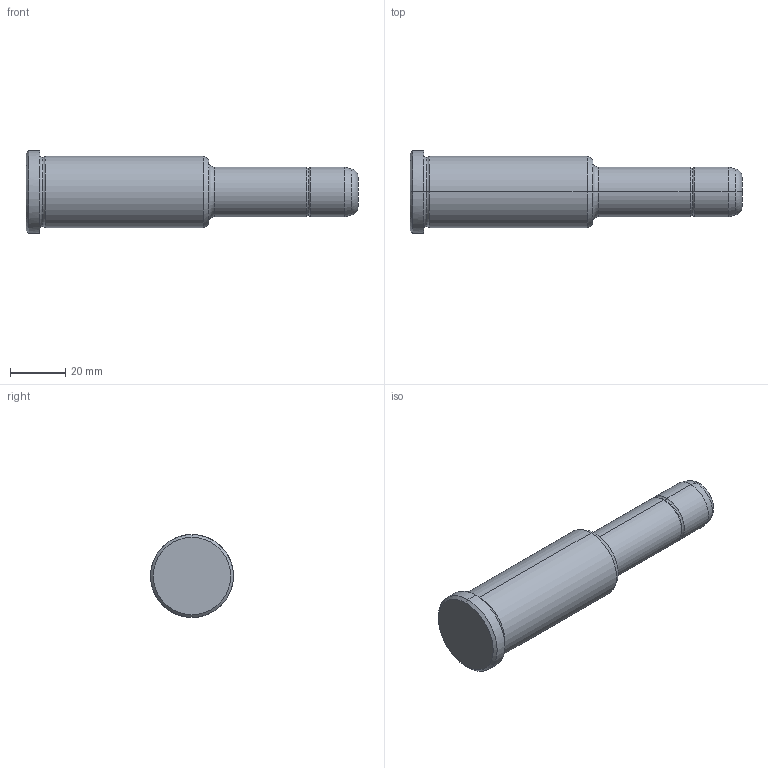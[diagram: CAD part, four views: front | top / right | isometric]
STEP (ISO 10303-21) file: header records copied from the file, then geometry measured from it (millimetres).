
FILE_DESCRIPTION(('CATIA V5 STEP Exchange'),'2;1');
FILE_NAME('C:\Users\Utente\Desktop\IO LAVORO\3D X SITO CF\X SITO\PLASTICA\351\351-18X66X120.stp','2021-08-27T11:22:32+00:00',('none'),('none'),'CATIA Version 5 Release 20 GA (IN-10)','CATIA V5 STEP AP203','none');
FILE_SCHEMA(('CONFIG_CONTROL_DESIGN'));
Length unit declared in the file: millimetre
Products named in the file (1): 351-18X66X120
Bounding box: 120 x 30 x 30 mm (x, y, z)
Volume: 49261.5 mm3; surface area: 9669.8 mm2
Topology: 1 solids, 1 shells, 30 faces, 86 edges, 60 vertices
Faces by surface type: torus 12, cylinder 8, cone 6, plane 4
Entity records: 1112 total; most frequent: CARTESIAN_POINT 289, ORIENTED_EDGE 172, DIRECTION 138, AXIS2_PLACEMENT_3D 95, EDGE_CURVE 86, CIRCLE 64, VERTEX_POINT 60, EDGE_LOOP 32
